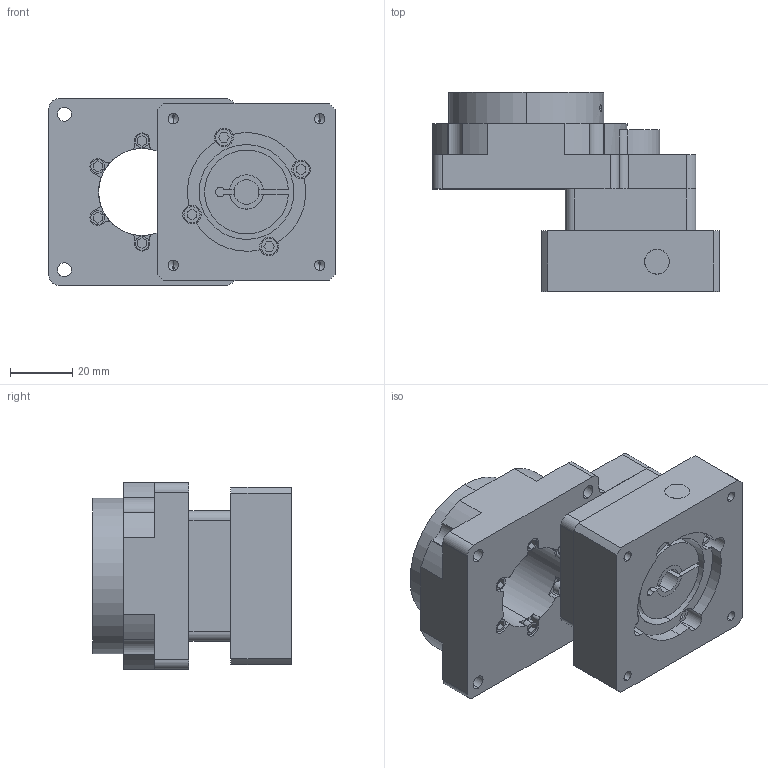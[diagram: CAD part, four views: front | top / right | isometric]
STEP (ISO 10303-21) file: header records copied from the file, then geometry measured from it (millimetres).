
FILE_DESCRIPTION (( 'STEP AP203' ), '1' );
FILE_NAME ('NT60-05-B2耀倰(饜57祭輛喜渡).STEP', '2025-04-28T02:45:49', ( 'Windows User' ), ( 'P R C' ), 'SwSTEP 2.0', 'SolidWorks 2016', '' );
FILE_SCHEMA (( 'CONFIG_CONTROL_DESIGN' ));
Products named in the file (1): NT60-05-B2耀倰(饜57祭輛喜渡)
Bounding box: 92.1 x 64 x 60 mm (x, y, z)
Volume: 156031 mm3; surface area: 39771.7 mm2
Topology: 2 solids, 8 shells, 1217 faces, 3224 edges, 2122 vertices
Faces by surface type: plane 791, bspline 208, cylinder 182, cone 36
Entity records: 45187 total; most frequent: CARTESIAN_POINT 16100, ORIENTED_EDGE 6376, DIRECTION 5182, EDGE_CURVE 3188, VECTOR 2374, LINE 2374, VERTEX_POINT 2122, AXIS2_PLACEMENT_3D 1404
